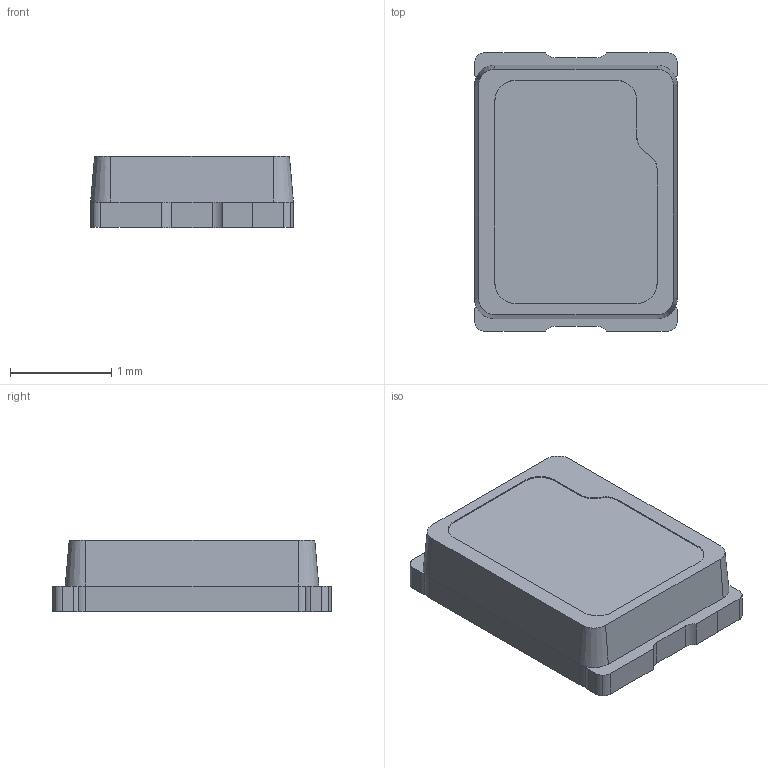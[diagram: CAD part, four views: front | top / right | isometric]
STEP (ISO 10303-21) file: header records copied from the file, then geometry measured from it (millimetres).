
FILE_DESCRIPTION(('STEP AP203'),'1');
FILE_NAME('D:/3. Prosource/230224 SVA-TZHG/To update/SVA-TZHG_300921.stp','2023-03-02T01:06:32',(' '),(' '),'Spatial InterOp 3D',' ',' ');
FILE_SCHEMA(('CONFIG_CONTROL_DESIGN'));
Length unit declared in the file: millimetre
Products named in the file (1): 1
Bounding box: 2 x 2.75 x 0.7 mm (x, y, z)
Volume: 3.5 mm3; surface area: 16.8 mm2
Topology: 1 solids, 1 shells, 87 faces, 244 edges, 160 vertices
Faces by surface type: plane 43, cylinder 34, cone 10
Entity records: 2866 total; most frequent: DIRECTION 508, CARTESIAN_POINT 492, ORIENTED_EDGE 488, EDGE_CURVE 244, AXIS2_PLACEMENT_3D 176, VERTEX_POINT 160, LINE 156, VECTOR 156
